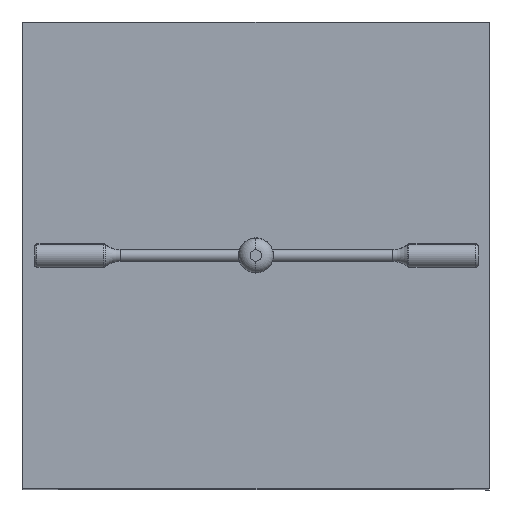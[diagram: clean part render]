
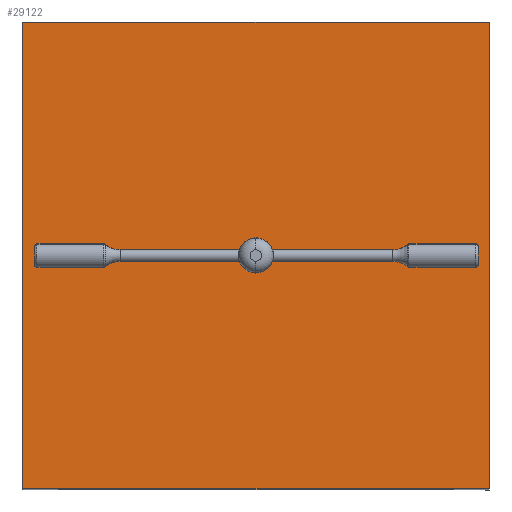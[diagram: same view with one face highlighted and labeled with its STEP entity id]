
A CAD part, top view. The second image highlights one B-rep face of the part: STEP entity #29122.
In plain terms, the highlighted planar face has unit normal (0, 0, 1) as drawn and (0, 0, -1) by its records, which use the part's own axes.
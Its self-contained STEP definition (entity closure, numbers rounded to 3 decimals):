
#1687 = VECTOR ( 'NONE', #17263, 1000. ) ;
#2086 = EDGE_CURVE ( 'NONE', #38548, #22628, #4546, .T. ) ;
#2284 = DIRECTION ( 'NONE',  ( 0., 1., 0. ) ) ;
#3505 = EDGE_CURVE ( 'NONE', #36445, #24427, #12878, .T. ) ;
#3771 = EDGE_CURVE ( 'NONE', #22628, #38548, #32163, .T. ) ;
#4546 = CIRCLE ( 'NONE', #17642, 7.5 ) ;
#4619 = CARTESIAN_POINT ( 'NONE',  ( 0., 0., 0. ) ) ;
#7204 = DIRECTION ( 'NONE',  ( 1., 0., 0. ) ) ;
#9650 = VECTOR ( 'NONE', #11554, 1000. ) ;
#10599 = EDGE_LOOP ( 'NONE', ( #30793, #26634 ) ) ;
#11554 = DIRECTION ( 'NONE',  ( -1., 0., 0. ) ) ;
#11983 = LINE ( 'NONE', #38317, #9650 ) ;
#12878 = LINE ( 'NONE', #26051, #26012 ) ;
#13352 = EDGE_CURVE ( 'NONE', #23340, #36445, #14461, .T. ) ;
#14461 = LINE ( 'NONE', #33477, #38104 ) ;
#15495 = CARTESIAN_POINT ( 'NONE',  ( 0., 0., 0. ) ) ;
#17263 = DIRECTION ( 'NONE',  ( 0., -1., 0. ) ) ;
#17642 = AXIS2_PLACEMENT_3D ( 'NONE', #15495, #19393, #29327 ) ;
#19393 = DIRECTION ( 'NONE',  ( 0., 0., -1. ) ) ;
#21027 = DIRECTION ( 'NONE',  ( 0., 0., -1. ) ) ;
#22628 = VERTEX_POINT ( 'NONE', #26199 ) ;
#23340 = VERTEX_POINT ( 'NONE', #38365 ) ;
#23677 = AXIS2_PLACEMENT_3D ( 'NONE', #4619, #27282, #7204 ) ;
#24427 = VERTEX_POINT ( 'NONE', #37785 ) ;
#24497 = DIRECTION ( 'NONE',  ( -1., 0., 0. ) ) ;
#24547 = ORIENTED_EDGE ( 'NONE', *, *, #3505, .F. ) ;
#25384 = ORIENTED_EDGE ( 'NONE', *, *, #13352, .F. ) ;
#25987 = AXIS2_PLACEMENT_3D ( 'NONE', #28150, #21027, #24497 ) ;
#26012 = VECTOR ( 'NONE', #2284, 1000. ) ;
#26051 = CARTESIAN_POINT ( 'NONE',  ( 100., 100., 0. ) ) ;
#26199 = CARTESIAN_POINT ( 'NONE',  ( -7.5, 0., 0. ) ) ;
#26634 = ORIENTED_EDGE ( 'NONE', *, *, #2086, .F. ) ;
#27282 = DIRECTION ( 'NONE',  ( 0., 0., 1. ) ) ;
#27643 = DIRECTION ( 'NONE',  ( 1., 0., 0. ) ) ;
#28150 = CARTESIAN_POINT ( 'NONE',  ( 0., 0., 0. ) ) ;
#29122 = ADVANCED_FACE ( 'NONE', ( #30738, #37424 ), #34179, .F. ) ;
#29327 = DIRECTION ( 'NONE',  ( -1., 0., 0. ) ) ;
#29504 = ORIENTED_EDGE ( 'NONE', *, *, #38782, .F. ) ;
#30738 = FACE_BOUND ( 'NONE', #10599, .T. ) ;
#30793 = ORIENTED_EDGE ( 'NONE', *, *, #3771, .F. ) ;
#30872 = LINE ( 'NONE', #40798, #1687 ) ;
#32163 = CIRCLE ( 'NONE', #25987, 7.5 ) ;
#33477 = CARTESIAN_POINT ( 'NONE',  ( -100., -100., 0. ) ) ;
#33986 = EDGE_CURVE ( 'NONE', #24427, #35057, #11983, .T. ) ;
#34179 = PLANE ( 'NONE',  #23677 ) ;
#34416 = CARTESIAN_POINT ( 'NONE',  ( -100., 100., 0. ) ) ;
#35057 = VERTEX_POINT ( 'NONE', #34416 ) ;
#36445 = VERTEX_POINT ( 'NONE', #38366 ) ;
#37424 = FACE_OUTER_BOUND ( 'NONE', #39803, .T. ) ;
#37785 = CARTESIAN_POINT ( 'NONE',  ( 100., 100., 0. ) ) ;
#38104 = VECTOR ( 'NONE', #27643, 1000. ) ;
#38317 = CARTESIAN_POINT ( 'NONE',  ( -100., 100., 0. ) ) ;
#38365 = CARTESIAN_POINT ( 'NONE',  ( -100., -100., 0. ) ) ;
#38366 = CARTESIAN_POINT ( 'NONE',  ( 100., -100., 0. ) ) ;
#38548 = VERTEX_POINT ( 'NONE', #39331 ) ;
#38782 = EDGE_CURVE ( 'NONE', #35057, #23340, #30872, .T. ) ;
#39154 = ORIENTED_EDGE ( 'NONE', *, *, #33986, .F. ) ;
#39331 = CARTESIAN_POINT ( 'NONE',  ( 7.5, 0., 0. ) ) ;
#39803 = EDGE_LOOP ( 'NONE', ( #24547, #25384, #29504, #39154 ) ) ;
#40798 = CARTESIAN_POINT ( 'NONE',  ( -100., 100., 0. ) ) ;
